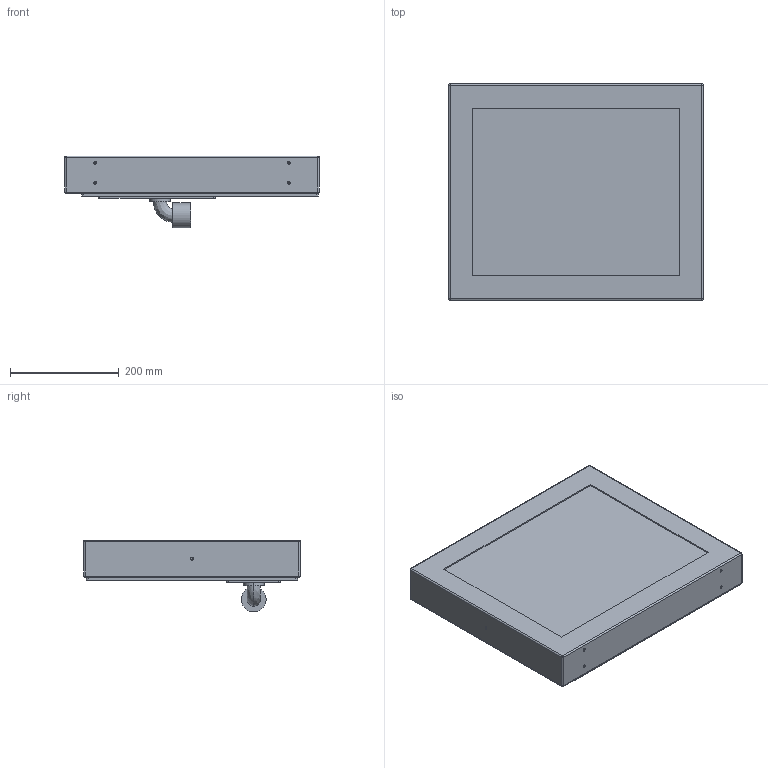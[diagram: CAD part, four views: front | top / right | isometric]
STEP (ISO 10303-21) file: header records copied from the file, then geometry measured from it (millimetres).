
FILE_DESCRIPTION (( 'STEP AP214' ), '1' );
FILE_NAME ('19 inch Universal Mount Monitor, HIS-UM19-xxxH, with KVM2EXT and CP-CON.STEP', '2019-11-18T20:48:58', ( '' ), ( '' ), 'SwSTEP 2.0', 'SolidWorks 2017', '' );
FILE_SCHEMA (( 'AUTOMOTIVE_DESIGN' ));
Length unit declared in the file: inch
Products named in the file (1): 19 inch Universal Mount Monitor, HIS-UM19-xxxH, with KVM2EXT and CP-CON
Bounding box: 467.36 x 397.51 x 131.78 mm (x, y, z)
Volume: 13411217.7 mm3; surface area: 513714.2 mm2
Topology: 1 solids, 1 shells, 104 faces, 250 edges, 136 vertices
Faces by surface type: cylinder 44, plane 30, cone 20, sphere 8, bspline 2
Entity records: 3710 total; most frequent: CARTESIAN_POINT 523, DIRECTION 520, ORIENTED_EDGE 444, EDGE_CURVE 222, AXIS2_PLACEMENT_3D 197, VERTEX_POINT 136, LINE 126, VECTOR 126
